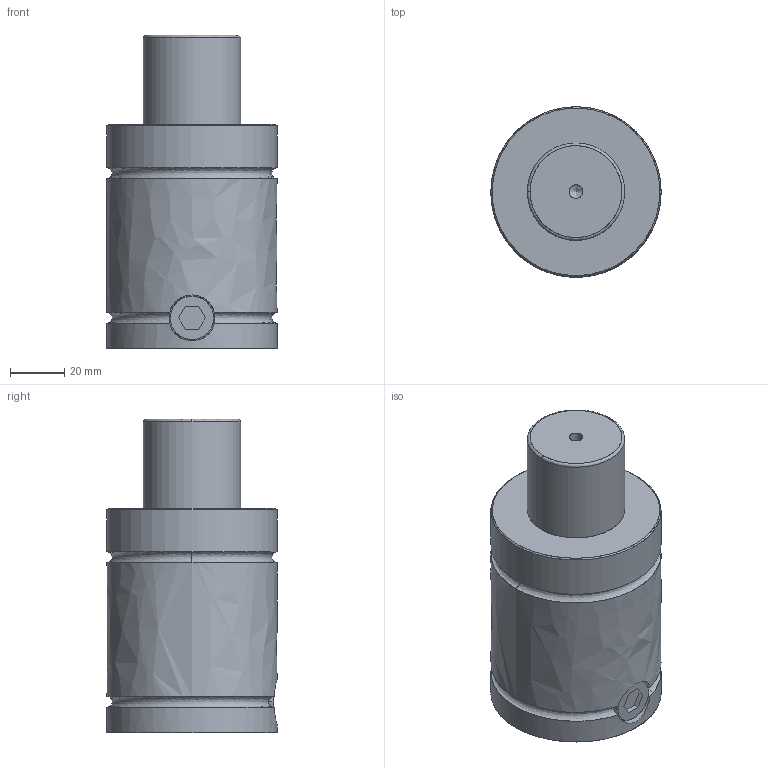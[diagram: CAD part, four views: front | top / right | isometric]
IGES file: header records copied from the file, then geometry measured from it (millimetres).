
Start section: VISI Layer Mapping Iges    VISI  0      LAYER_EMPTY  1      wwww  7      W_PD700  8      S_PD700  10     W_PD1000  11     S_PD1000  13     W_PD2000  14     S_PD2000  16     W_PD3000  17     S_PD3000  19     W_PD4000  20     S_PD4000  22     W_PD7000  23     S_PD7000  28     W_350  29     MS-350  30     MC-350  31     MP-350  32     MB-350  33     MH-350  34     MK-350  35     MPL-350  39     W_500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
Global section: file name: E:\だ錶臢\だ錶臢3D\SYLINDER\PT Series\PT1500\PT1500\PT1500-32.igs; native system: VISI 16.0; preprocessor: 2.0; author: 11; organization: 0; date: 500.; units: mil
Bounding box: 63 x 63 x 116 mm (x, y, z)
Surface area: 29106.2 mm2 (no closed solid volume)
Topology: 0 solids, 0 shells, 33 faces, 476 edges, 450 vertices
Faces by surface type: bspline 33
